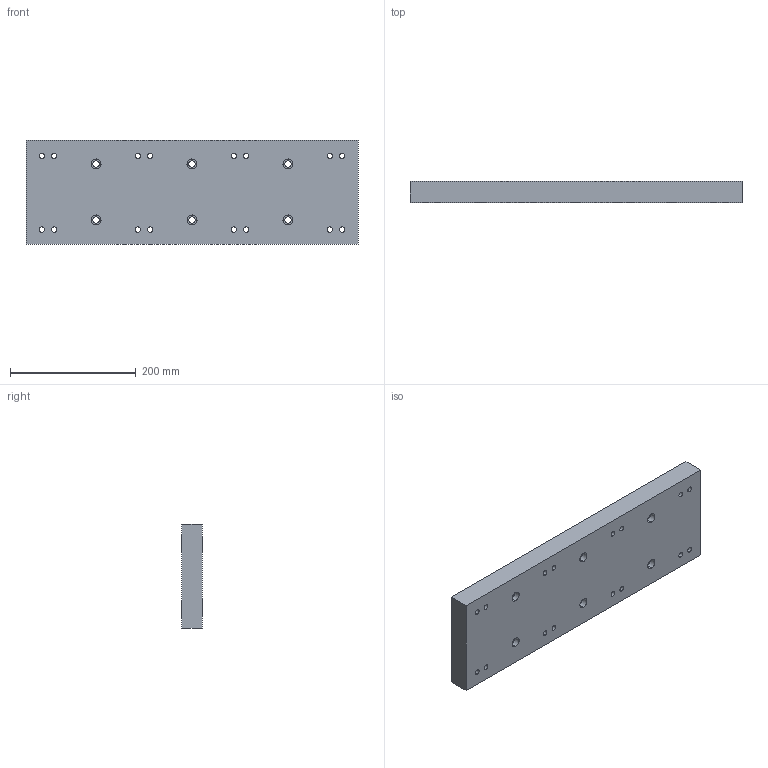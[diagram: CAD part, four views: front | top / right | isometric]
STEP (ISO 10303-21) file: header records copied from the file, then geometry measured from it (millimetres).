
FILE_DESCRIPTION (( 'STEP AP203' ), '1' );
FILE_NAME ('269-18-202.STEP', '2020-03-03T04:40:56', ( '' ), ( '' ), 'SwSTEP 2.0', 'SolidWorks 2017', '' );
FILE_SCHEMA (( 'CONFIG_CONTROL_DESIGN' ));
Length unit declared in the file: inch
Products named in the file (1): 269-18-202
Bounding box: 527.05 x 33.32 x 165.1 mm (x, y, z)
Volume: 2836221.4 mm3; surface area: 240937.2 mm2
Topology: 1 solids, 1 shells, 116 faces, 276 edges, 184 vertices
Faces by surface type: cylinder 88, plane 28
Entity records: 3623 total; most frequent: DIRECTION 686, CARTESIAN_POINT 577, ORIENTED_EDGE 552, AXIS2_PLACEMENT_3D 293, EDGE_CURVE 276, VERTEX_POINT 184, EDGE_LOOP 182, CIRCLE 176
